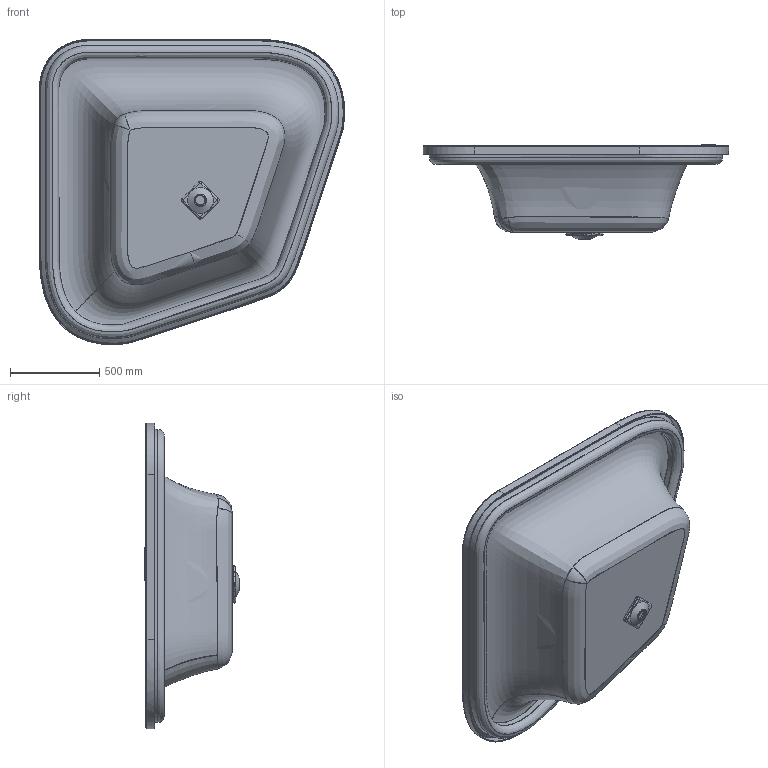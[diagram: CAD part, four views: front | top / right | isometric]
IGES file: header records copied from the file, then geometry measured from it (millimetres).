
Start section: SolidWorks IGES file using analytic representation for surfaces
Global section: file name: D:\Users\M.Szymanski\Desktop\Wanny\ergo-stripe\03. do przegrania\WS_ERGO_1640x1640.IGS; native system: SolidWorks 2011; preprocessor: SolidWorks 2011; author: M.Szymanski; date: 181218.081634; units: millimetre
Bounding box: 1713 x 536.94 x 1713 mm (x, y, z)
Surface area: 4904330.7 mm2 (no closed solid volume)
Topology: 0 solids, 0 shells, 263 faces, 1873 edges, 2380 vertices
Faces by surface type: bspline 160, revolution 103
